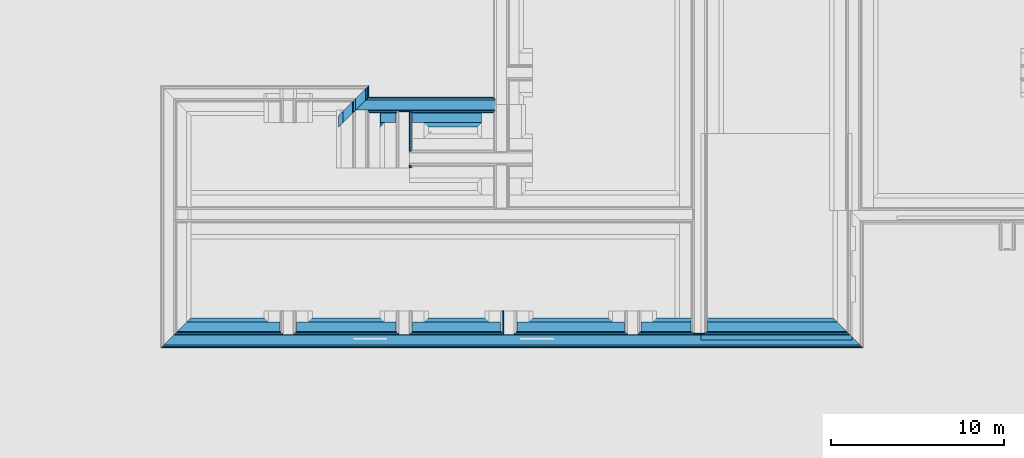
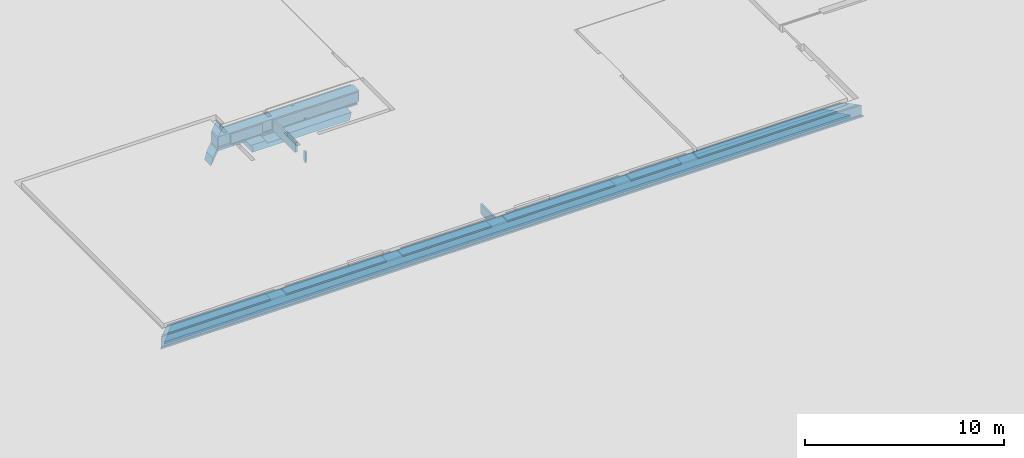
# One storey, part 4 of 15: 17 building element parts, 5 elements without a shape of their own.
"""IFC2X3 building model written with IfcOpenShell, lengths in millimetres."""

from ifc_helpers import new_model, entity, si_unit, converted_unit, derived_unit, money_unit, direction, frame, origin_with_axes, place, context, subcontext, project, spatial, faceted_brep, material, type_object, element, aggregate, save


model = new_model("IFC2X3")

# Units and contexts
model_context = context("Model", 3, precision=0.01, world=origin_with_axes(), true_north=direction((0.0, 1.0)))
plan_context = context("Plan", 3, precision=0.01, world=origin_with_axes(), true_north=direction((0.0, 1.0)))
body_context = subcontext(model_context, "Body", "Model", "MODEL_VIEW")
ifc_project = project(units=[si_unit("LENGTHUNIT", "METRE", prefix="MILLI"), si_unit("AREAUNIT", "SQUARE_METRE"), si_unit("VOLUMEUNIT", "CUBIC_METRE"), converted_unit("PLANEANGLEUNIT", "DEGREE", entity("IfcPlaneAngleMeasure", 0.0174532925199), si_unit("PLANEANGLEUNIT", "RADIAN"), dimensions=[0, 0, 0, 0, 0, 0, 0]), money_unit("EUR"), converted_unit("TIMEUNIT", "Year", entity("IfcTimeMeasure", 31556926.0), si_unit("TIMEUNIT", "SECOND"), dimensions=[0, 0, 1, 0, 0, 0, 0]), si_unit("MASSUNIT", "GRAM", prefix="KILO"), si_unit("THERMODYNAMICTEMPERATUREUNIT", "DEGREE_CELSIUS"), si_unit("LUMINOUSINTENSITYUNIT", "LUMEN"), si_unit("ENERGYUNIT", "JOULE", prefix="MEGA"), derived_unit("THERMALCONDUCTANCEUNIT", [(si_unit("POWERUNIT", "WATT"), 1), (si_unit("LENGTHUNIT", "METRE"), -1), (si_unit("THERMODYNAMICTEMPERATUREUNIT", "KELVIN"), -1)]), derived_unit("SPECIFICHEATCAPACITYUNIT", [(si_unit("ENERGYUNIT", "JOULE"), 1), (si_unit("MASSUNIT", "GRAM", prefix="KILO"), -1), (si_unit("THERMODYNAMICTEMPERATUREUNIT", "KELVIN"), -1)]), derived_unit("MASSDENSITYUNIT", [(si_unit("MASSUNIT", "GRAM", prefix="KILO"), 1), (si_unit("VOLUMEUNIT", "CUBIC_METRE"), -1)])], contexts=[model_context, plan_context])

# Site, building, storey
site_placement = place(None, origin_with_axes())
site = spatial("IfcSite", under=ifc_project, at=site_placement, Name="Site", CompositionType="ELEMENT")
building_placement = place(site_placement, origin_with_axes())
building = spatial("IfcBuilding", under=site, at=building_placement, Name="Naam gebouw", CompositionType="ELEMENT")
storey_placement = place(building_placement, frame((0.0, 0.0, -1050.0), z_axis=(0.0, 0.0, 1.0), x_axis=(1.0, 0.0, 0.0)))
storey = spatial("IfcBuildingStorey", under=building, at=storey_placement, Name="fundering", CompositionType="ELEMENT", Elevation=-1050.0)

# Beam, building element parts
beam_type_1 = type_object("IfcBeamType", Name="Fundering balk IsoBouw Powerkist buitenwand 1750 x 850", PredefinedType="BEAM")
beam_1_placement = place(storey_placement, frame((16004.9996945, 18495.0, -60.000005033), z_axis=(0.0, 0.0, 1.0), x_axis=(0.0, -1.0, 0.0)))
beam_1 = element("IfcBeam", 1, at=beam_1_placement, inside=storey, type_object=beam_type_1, Name="28_Balk-x", ObjectType="BEAM")
ifc_material_1 = material(Name="ALG - TERREIN")
building_element_part_1_placement = place(beam_1_placement, origin_with_axes())
building_element_part_1 = element("IfcBuildingElementPart", 2, at=building_element_part_1_placement, material=ifc_material_1, Name="ALG - TERREIN", context=body_context, shape_type="Brep", body=[
    faceted_brep([(1154.99962712, 1240.00030548, -109.999618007), (1295.00000274, 1099.99992986, -249.999995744), (1295.00000274, 6740.00005415, -249.99999363), (1045.00001313, 6990.00005135, -6.92593293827e-06), (1045.00001313, 2975.0006811, 3.55514506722e-06), (1145.000005, 2975.0006811, -99.9999958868), (1145.00000532, 2024.99992986, -99.9999962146), (1045.00001313, 2024.99992986, 2.61899413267e-06), (1045.00001313, 1130.00070343, -1.99931537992e-06), (319.999997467, 1240.00030548, -109.999618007), (319.999997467, 1099.99992986, -249.999996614), (319.999997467, -320.000577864, -249.99999363), (20.0000061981, -20.000042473, -249.999996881), (20.0000061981, 6740.00005415, -249.99999363), (20.0000061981, 6890.00005509, -99.9999926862), (495.000015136, 6890.00005509, -99.9999926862), (495.000015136, 6990.00005135, -1.40395806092e-06), (495.00000274, 2975.0006811, 7.15338899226e-07), (495.00000274, 2975.0006811, -99.9999968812), (319.999997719, 1230.00068016, -99.9999926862), (495.00000274, 1230.00068367, -99.999996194), (495.00000274, 2024.99992986, -99.9999968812), (20.0000061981, -20.000042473, -99.9999926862), (319.999997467, -320.000577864, -99.9999894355), (319.999997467, 455.000701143, -99.9999926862), (495.00000274, 2024.99992986, 7.15338899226e-07), (495.00000274, 1130.00070343, 9.31758892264e-07)], [[[0, 1, 2, 3, 4, 5, 6, 7, 8]], [[1, 0, 9, 10]], [[10, 11, 12, 13, 2, 1]], [[13, 14, 15, 16, 3, 2]], [[16, 17, 4, 3]], [[5, 4, 17, 18]], [[19, 20, 21, 6, 5, 18, 15, 14, 22, 23, 24]], [[6, 21, 25, 7]], [[26, 8, 7, 25]], [[0, 8, 26, 20, 19, 9]], [[19, 24, 23, 11, 10, 9]], [[11, 23, 22, 12]], [[12, 22, 14, 13]], [[15, 18, 17, 16]], [[20, 26, 25, 21]]]),
])
ifc_material_2 = material(Name="Isolatie - EPS")
building_element_part_2_placement = place(beam_1_placement, origin_with_axes())
building_element_part_2 = element("IfcBuildingElementPart", 3, at=building_element_part_2_placement, material=ifc_material_2, Name="Isolatie - EPS", context=body_context, shape_type="Brep", body=[
    faceted_brep([(319.999997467, 455.000681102, -99.9999936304), (319.999997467, 455.000681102, -49.0824410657), (319.99999279, 7665.00005415, -49.0824410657), (319.99999279, 7665.00005415, 1.05045350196e-06), (319.99999279, -320.000573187, 7.15338899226e-07), (319.99999279, -320.000573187, -49.082437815), (319.999997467, -320.000577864, -99.9999920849), (400.000002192, 455.000681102, 1.16873148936e-05), (400.000002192, 455.000681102, -49.0824392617), (495.00000274, 455.000681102, -99.9999936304), (495.00000274, 455.000681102, 1.16873148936e-05), (419.999990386, 455.000681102, 1.16873148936e-05), (400.000002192, 7665.00005415, -49.0824410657), (-455.00000274, 7665.00030274, -99.9999936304), (-455.00000274, 7665.00030274, -8.21847834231e-06), (-379.999990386, 7665.00030274, -6.21002538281e-06), (-360.000002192, 7665.00030274, -5.67443825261e-06), (-360.000002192, 7665.00030274, -49.0824410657), (-279.99999279, 7665.00030274, -49.0824410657), (-279.99999279, 7665.00030274, -3.53208839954e-06), (400.000002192, 7665.00005415, 1.39406308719e-06), (419.999990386, 7665.00005415, 1.4799654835e-06), (495.00000274, 7665.00005415, 1.80209958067e-06), (495.00000274, 7665.00005415, -99.9999936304), (20.0000061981, 7665.00005415, -99.9999936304), (-279.99999279, 280.000500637, 7.15338899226e-07), (20.0000061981, -20.000042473, -99.9999926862), (-279.99999279, 280.000500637, -49.0824410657), (-360.000002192, 360.000655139, -49.0824410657), (-360.000002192, 360.000655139, 7.15338899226e-07), (-379.999990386, 380.000679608, 7.15338899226e-07), (-455.00000274, 455.000827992, 7.15338899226e-07), (-455.00000274, 455.000827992, -99.9999968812)], [[[0, 1, 2, 3, 4, 5, 6]], [[7, 8, 1, 0, 9, 10, 11]], [[2, 1, 8, 12]], [[13, 14, 15, 16, 17, 18, 19, 3, 2, 12, 20, 21, 22, 23, 24]], [[19, 25, 4, 3]], [[26, 6, 5, 4, 25, 27, 28, 29, 30, 31, 32]], [[9, 0, 6, 26, 24, 23]], [[12, 8, 7, 20]], [[22, 10, 9, 23]], [[21, 11, 10, 22]], [[20, 7, 11, 21]], [[14, 13, 32, 31]], [[15, 14, 31, 30]], [[16, 15, 30, 29]], [[17, 16, 29, 28]], [[18, 17, 28, 27]], [[19, 18, 27, 25]], [[26, 32, 13, 24]]]),
])
building_element_part_3_placement = place(beam_1_placement, origin_with_axes())
building_element_part_3 = element("IfcBuildingElementPart", 4, at=building_element_part_3_placement, material=ifc_material_2, Name="Isolatie - EPS", context=body_context, shape_type="Brep", body=[
    faceted_brep([(-379.999993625, 380.000682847, 600.000001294), (-279.999999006, 280.000506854, 600.000001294), (-279.999999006, 7740.00031556, 600.000007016), (-379.999993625, 7740.00031688, 600.000007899), (-359.999996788, 360.000649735, -49.0824424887), (-279.999999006, 280.000506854, -49.0824424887), (-379.999993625, 380.000682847, 2.28759100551e-06), (-359.999996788, 360.000649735, 2.28759100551e-06), (-279.999999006, 7665.00030274, -49.0824424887), (-279.999999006, 7665.00030274, -3.53208862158e-06), (-279.999999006, 7740.00031556, 1.3120043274e-05), (-379.999993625, 7740.00031688, 1.58277775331e-05), (-359.999996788, 7665.00030274, -49.0824424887), (-359.999996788, 7665.00030274, -5.67443803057e-06)], [[[0, 1, 2, 3]], [[4, 5, 1, 0, 6, 7]], [[8, 9, 10, 2, 1, 5]], [[2, 10, 11, 3]], [[6, 0, 3, 11]], [[5, 4, 12, 8]], [[7, 6, 11, 10, 9, 13]], [[4, 7, 13, 12]], [[9, 8, 12, 13]]]),
])
building_element_part_4_placement = place(beam_1_placement, origin_with_axes())
building_element_part_4 = element("IfcBuildingElementPart", 5, at=building_element_part_4_placement, material=ifc_material_2, Name="Isolatie - EPS", context=body_context, shape_type="Brep", body=[
    faceted_brep([(319.999997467, 455.000681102, -49.082439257), (319.999997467, 455.000681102, 1.16873148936e-05), (319.999997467, 380.000666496, 1.16873148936e-05), (319.999997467, 380.000671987, 600.00000763), (320.0, 2199.99993259, 600.000001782), (320.0, 2199.99993259, 1.78216552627e-06), (320.0, 2800.00067836, 1.78216552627e-06), (320.0, 2800.00067836, 600.000001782), (319.999999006, 7740.00006598, 600.000004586), (319.999999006, 7740.00006598, 8.15086287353e-06), (319.999999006, 7665.00005415, 1.05045350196e-06), (319.999999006, 7665.00005415, -49.0824407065), (399.999996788, 455.000681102, 1.16873148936e-05), (399.999996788, 455.000681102, -49.082439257), (399.999996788, 380.000666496, 1.16873148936e-05), (419.999993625, 380.000671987, 5.67576496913e-06), (419.999993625, 380.000671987, 600.00000763), (419.999993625, 2199.99993259, 600.000001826), (419.999993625, 2199.99993259, 1.82607085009e-06), (399.999996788, 2199.99993259, 1.8172896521e-06), (399.999996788, 2800.00067836, 1.8172896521e-06), (419.999993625, 2800.00067836, 1.82607085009e-06), (419.999993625, 2800.00067836, 600.000001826), (419.999993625, 7740.00006683, 600.000003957), (419.999993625, 7740.00006683, 7.85212783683e-06), (399.999996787, 7665.00005415, 1.39406308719e-06), (399.999996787, 7665.00005415, -49.0824407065)], [[[0, 1, 2, 3, 4, 5, 6, 7, 8, 9, 10, 11]], [[12, 1, 0, 13]], [[14, 2, 1, 12]], [[3, 2, 14, 15, 16]], [[17, 4, 3, 16]], [[18, 19, 5, 4, 17]], [[5, 19, 20, 6]], [[20, 21, 22, 7, 6]], [[22, 23, 8, 7]], [[9, 8, 23, 24]], [[24, 21, 20, 25, 10, 9]], [[11, 10, 25, 26]], [[26, 13, 0, 11]], [[19, 12, 13, 26, 25, 20]], [[15, 14, 12, 19, 18]], [[18, 17, 16, 15]], [[21, 24, 23, 22]]]),
])
ifc_material_3 = material(Name="Beton gewapend C")
building_element_part_5_placement = place(beam_1_placement, origin_with_axes())
building_element_part_5 = element("IfcBuildingElementPart", 6, at=building_element_part_5_placement, material=ifc_material_3, Name="Beton gewapend C", context=body_context, shape_type="Brep", body=[
    faceted_brep([(-280.0, 280.000507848, 600.0), (320.0, -320.000580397, 600.000001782), (320.0, 7840.00005689, 600.000003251), (-280.0, 7840.00030548, 600.000003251), (320.0, -320.000580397, 1.78216552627e-06), (-280.0, 280.000507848, 0.0), (320.0, 7840.00005689, 3.25079585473e-06), (-280.0, 7840.00030548, 3.25079585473e-06)], [[[0, 1, 2, 3]], [[4, 1, 0, 5]], [[1, 4, 6, 2]], [[7, 3, 2, 6]], [[7, 5, 0, 3]], [[5, 7, 6, 4]]]),
])
aggregate(beam_1, [building_element_part_1, building_element_part_2, building_element_part_3, building_element_part_4, building_element_part_5])

beam_2_placement = place(storey_placement, frame((44654.9999844, 4850.00002155, -60.0000017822), z_axis=(0.0, 0.0, 1.0), x_axis=(-5.4149593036e-10, 1.0, 0.0)))
beam_2 = element("IfcBeam", 7, at=beam_2_placement, inside=storey, type_object=beam_type_1, Name="28_Balk-x", ObjectType="BEAM")
building_element_part_6_placement = place(beam_2_placement, origin_with_axes())
building_element_part_6 = element("IfcBuildingElementPart", 8, at=building_element_part_6_placement, material=ifc_material_1, Name="ALG - TERREIN", context=body_context, shape_type="Brep", body=[
    faceted_brep([(1045.00001313, 9525.00035945, 8.22691470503e-07), (1145.00001132, 9525.00035939, -99.9999968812), (1145.00001132, 8574.99960815, -99.9999968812), (1045.00001313, 8574.9996082, 8.22691470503e-07), (1045.00001313, 1045.00001257, -7.27431315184e-06), (1295.00000274, 1295.00000204, -249.999996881), (1295.00000274, 38509.9999809, -249.999996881), (1045.00001313, 38759.9999707, -7.27431315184e-06), (1045.00001313, 33342.5007323, 1.30305788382e-06), (1145.00001132, 33342.5007323, -99.9999968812), (1145.00001132, 32392.4992353, -99.9999968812), (1045.00001313, 32392.4992353, 1.30305788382e-06), (1045.00001313, 26625.0007323, 1.30305788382e-06), (1145.00001132, 26625.0007323, -99.9999968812), (1145.00001132, 25674.9992353, -99.9999968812), (1045.00001313, 25674.9992353, 1.30305788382e-06), (1045.00001313, 20555.0007323, 1.30305788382e-06), (1145.00001484, 20555.0007323, -99.9999968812), (1145.00001484, 19604.9992353, -99.9999968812), (1045.00001313, 19604.9992353, 1.30305788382e-06), (1045.00001313, 13392.5011052, 4.82853690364e-06), (1145.00000274, 13392.5011052, -99.9999968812), (1145.00000274, 12442.4988624, -99.9999968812), (1045.00001313, 12442.4988624, 4.82853690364e-06), (495.00000274, 9525.00035974, 7.15338899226e-07), (495.00000274, 9525.00035974, -99.9999968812), (495.00000274, 8574.9996085, -99.9999968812), (495.00000274, 12442.4988627, -99.9999968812), (495.00000274, 13392.5011055, -99.9999968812), (495.00000274, 19604.9992356, -99.9999968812), (495.00000274, 20555.0007326, -99.9999968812), (495.00000274, 25674.9992356, -99.9999968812), (495.00000274, 26625.0007326, -99.9999968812), (495.00000274, 32392.4992356, -99.9999968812), (495.00000274, 33342.5007326, -99.9999968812), (495.000015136, 39309.999969, -99.9999926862), (20.0000061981, 39784.9999782, -99.9999926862), (20.0000061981, 20.0000061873, -99.9999926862), (495.000015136, 495.000014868, -99.9999926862), (495.00000274, 8574.9996085, 7.15338899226e-07), (495.000015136, 495.000014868, -7.27431315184e-06), (20.0000061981, 20.0000061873, -249.999996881), (20.0000061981, 39784.9999782, -249.999996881), (495.000015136, 39309.999969, -7.27431315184e-06), (495.00000274, 33342.5007326, 7.15338899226e-07), (495.00000274, 32392.4992356, 7.15338899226e-07), (495.00000274, 26625.0007326, 7.15338899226e-07), (495.00000274, 25674.9992356, 7.15338899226e-07), (495.00000274, 20555.0007326, 7.15338899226e-07), (495.00000274, 19604.9992356, 7.15338899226e-07), (495.00000274, 13392.5011055, 7.15338899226e-07), (495.00000274, 12442.4988627, 7.15338899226e-07)], [[[0, 1, 2, 3, 4, 5, 6, 7, 8, 9, 10, 11, 12, 13, 14, 15, 16, 17, 18, 19, 20, 21, 22, 23]], [[1, 0, 24, 25]], [[26, 2, 1, 25, 27, 22, 21, 28, 29, 18, 17, 30, 31, 14, 13, 32, 33, 10, 9, 34, 35, 36, 37, 38]], [[3, 2, 26, 39]], [[3, 39, 40, 4]], [[40, 38, 37, 41, 5, 4]], [[41, 42, 6, 5]], [[6, 42, 36, 35, 43, 7]], [[43, 44, 8, 7]], [[34, 9, 8, 44]], [[45, 11, 10, 33]], [[12, 11, 45, 46]], [[46, 32, 13, 12]], [[31, 47, 15, 14]], [[48, 16, 15, 47]], [[16, 48, 30, 17]], [[18, 29, 49, 19]], [[49, 50, 20, 19]], [[21, 20, 50, 28]], [[23, 22, 27, 51]], [[24, 0, 23, 51]], [[25, 24, 51, 27]], [[29, 28, 50, 49]], [[30, 48, 47, 31]], [[46, 45, 33, 32]], [[35, 34, 44, 43]], [[37, 36, 42, 41]], [[39, 26, 38, 40]]]),
])
building_element_part_7_placement = place(beam_2_placement, origin_with_axes())
building_element_part_7 = element("IfcBuildingElementPart", 9, at=building_element_part_7_placement, material=ifc_material_2, Name="Isolatie - EPS", context=body_context, shape_type="Brep", body=[
    faceted_brep([(400.000002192, 400.000001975, 7.15338899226e-07), (400.000002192, 39404.999982, 7.15338899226e-07), (400.000002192, 39404.999982, -49.0824410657), (400.000002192, 400.000001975, -49.0824410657), (419.999990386, 419.999990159, 7.15338899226e-07), (419.999990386, 39384.9999938, 7.15338899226e-07), (-279.99999279, 40084.9999773, -49.0824410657), (-279.99999279, 40084.9999773, 7.15338899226e-07), (319.99999279, 39484.9999914, 7.15338899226e-07), (319.99999279, 39484.9999914, -49.0824410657), (495.00000274, 39309.9999814, 7.15338899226e-07), (495.00000274, 39309.9999814, -99.9999968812), (20.0000061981, 39784.9999782, -99.9999926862), (-455.00000274, 40259.9999874, -99.9999968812), (-455.00000274, 40259.9999874, 7.15338899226e-07), (-379.999990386, 40184.999975, 7.15338899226e-07), (-360.000002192, 40164.9999868, 7.15338899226e-07), (-360.000002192, 40164.9999868, -49.0824410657), (319.99999279, 319.999992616, -49.0824410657), (-455.00000274, -455.000002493, -99.9999968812), (20.0000061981, 20.0000061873, -99.9999926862), (495.00000274, 495.000002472, -99.9999968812), (495.00000274, 495.000002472, 7.15338899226e-07), (319.99999279, 319.999992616, 7.15338899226e-07), (-279.99999279, -279.999992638, 7.15338899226e-07), (-279.99999279, -279.999992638, -49.0824410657), (-360.000002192, -360.000001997, -49.0824410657), (-360.000002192, -360.000001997, 7.15338899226e-07), (-379.999990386, -379.99999018, 7.15338899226e-07), (-455.00000274, -455.000002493, 7.15338899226e-07)], [[[0, 1, 2, 3]], [[4, 5, 1, 0]], [[6, 7, 8, 9, 2, 1, 5, 10, 11, 12, 13, 14, 15, 16, 17]], [[3, 2, 9, 18]], [[19, 20, 21, 22, 4, 0, 3, 18, 23, 24, 25, 26, 27, 28, 29]], [[22, 10, 5, 4]], [[24, 7, 6, 25]], [[23, 8, 7, 24]], [[18, 9, 8, 23]], [[21, 11, 10, 22]], [[20, 12, 11, 21]], [[19, 13, 12, 20]], [[29, 14, 13, 19]], [[28, 15, 14, 29]], [[27, 16, 15, 28]], [[26, 17, 16, 27]], [[25, 6, 17, 26]]]),
])
building_element_part_8_placement = place(beam_2_placement, origin_with_axes())
building_element_part_8 = element("IfcBuildingElementPart", 10, at=building_element_part_8_placement, material=ifc_material_2, Name="Isolatie - EPS", context=body_context, shape_type="Brep", body=[
    faceted_brep([(-379.999993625, 40184.9999782, 2.28759100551e-06), (-359.999996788, 40164.9999814, 2.28759100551e-06), (-359.999996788, -359.999996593, 2.28759100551e-06), (-379.999993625, -379.999993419, 2.28759100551e-06), (-379.999993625, 40184.9999782, 600.000001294), (-279.999999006, 40084.9999835, 600.000001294), (-279.999999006, 40084.9999835, -49.0824424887), (-359.999996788, 40164.9999814, -49.0824424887), (-359.999996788, -359.999996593, -49.0824424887), (-279.999999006, -279.999998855, -49.0824424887), (-279.999999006, -279.999998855, 600.000001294), (-379.999993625, -379.999993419, 600.000001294)], [[[0, 1, 2, 3]], [[0, 4, 5, 6, 7, 1]], [[1, 7, 8, 2]], [[3, 2, 8, 9, 10, 11]], [[4, 0, 3, 11]], [[5, 4, 11, 10]], [[6, 5, 10, 9]], [[7, 6, 9, 8]]]),
])
building_element_part_9_placement = place(beam_2_placement, origin_with_axes())
building_element_part_9 = element("IfcBuildingElementPart", 11, at=building_element_part_9_placement, material=ifc_material_2, Name="Isolatie - EPS", context=body_context, shape_type="Brep", body=[
    faceted_brep([(419.999993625, 419.999993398, 570.000001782), (319.999999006, 319.999998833, 570.000001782), (319.999999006, 319.999998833, -49.0824407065), (399.999996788, 399.999996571, -49.0824407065), (399.999996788, 399.999996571, 4.06975675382e-06), (419.999993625, 419.999993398, 4.06975675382e-06), (320.0, 8749.99961133, 570.000001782), (419.999993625, 8749.99961128, 570.000001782), (320.0, 8749.99961133, 1.78216552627e-06), (320.0, 9350.0003571, 1.78216552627e-06), (320.0, 9350.0003571, 600.000001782), (320.0, 12617.4988655, 600.000001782), (320.0, 12617.4988655, 1.78216552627e-06), (320.0, 13217.5011029, 1.78216552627e-06), (320.0, 13217.5011029, 600.000001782), (320.0, 19779.9992384, 600.000001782), (320.0, 19779.9992384, 1.78216552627e-06), (320.0, 20380.00073, 1.78216552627e-06), (320.0, 20380.00073, 600.000001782), (320.0, 25849.9992384, 600.000001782), (320.0, 25849.9992384, 1.78216552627e-06), (320.0, 26450.00073, 1.78216552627e-06), (320.0, 26450.00073, 600.000001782), (320.0, 32567.4992384, 600.000001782), (320.0, 32567.4992384, 1.78216552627e-06), (320.0, 33167.50073, 1.78216552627e-06), (320.0, 33167.50073, 600.000001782), (319.999999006, 39484.9999852, 600.000003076), (319.999999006, 39484.9999852, -49.0824407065), (399.999996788, 39404.9999874, -49.0824407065), (399.999996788, 12617.4988655, 1.67885150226e-06), (399.999996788, 9350.00035706, 1.77857728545e-06), (399.999996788, 8749.99961129, 1.77857728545e-06), (399.999996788, 39404.9999874, 4.06975675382e-06), (399.999996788, 33167.5007299, 1.67885150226e-06), (399.999996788, 32567.4992384, 1.67885150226e-06), (399.999996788, 26450.0007299, 1.67885150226e-06), (399.999996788, 25849.9992384, 1.67885150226e-06), (399.999996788, 20380.0007299, 1.67885150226e-06), (399.999996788, 19779.9992384, 1.67885150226e-06), (399.999996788, 13217.5011028, 1.67885150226e-06), (419.999993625, 8749.99961128, 1.77768022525e-06), (419.999993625, 9350.00035705, 1.77768022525e-06), (419.999993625, 9350.00035705, 600.000001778), (419.999993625, 12617.4988655, 600.000001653), (419.999993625, 12617.4988655, 1.65302305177e-06), (419.999993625, 13217.5011028, 1.65302305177e-06), (419.999993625, 13217.5011028, 600.000001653), (419.999993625, 19779.9992384, 600.000001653), (419.999993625, 19779.9992384, 1.65302305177e-06), (419.999993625, 20380.0007299, 600.000001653), (419.999993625, 20380.0007299, 1.65302305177e-06), (419.999993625, 25849.9992384, 600.000001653), (419.999993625, 25849.9992384, 1.65302305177e-06), (419.999993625, 26450.0007299, 1.65302305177e-06), (419.999993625, 26450.0007299, 600.000001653), (419.999993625, 32567.4992384, 600.000001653), (419.999993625, 32567.4992384, 1.65302305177e-06), (419.999993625, 33167.5007299, 1.65302305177e-06), (419.999993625, 33167.5007299, 600.000001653), (419.999993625, 39384.9999905, 600.000003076), (419.999993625, 39384.9999905, 4.06975675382e-06)], [[[0, 1, 2, 3, 4, 5]], [[6, 1, 0, 7]], [[1, 6, 8, 9, 10, 11, 12, 13, 14, 15, 16, 17, 18, 19, 20, 21, 22, 23, 24, 25, 26, 27, 28, 2]], [[3, 2, 28, 29]], [[30, 31, 32, 4, 3, 29, 33, 34, 35, 36, 37, 38, 39, 40]], [[4, 32, 41, 5]], [[7, 0, 5, 41]], [[6, 7, 41, 32, 8]], [[8, 32, 31, 9]], [[31, 42, 43, 10, 9]], [[11, 10, 43, 44]], [[11, 44, 45, 30, 12]], [[12, 30, 40, 13]], [[46, 47, 14, 13, 40]], [[48, 15, 14, 47]], [[48, 49, 39, 16, 15]], [[39, 38, 17, 16]], [[50, 18, 17, 38, 51]], [[19, 18, 50, 52]], [[53, 37, 20, 19, 52]], [[36, 21, 20, 37]], [[22, 21, 36, 54, 55]], [[22, 55, 56, 23]], [[35, 24, 23, 56, 57]], [[25, 24, 35, 34]], [[25, 34, 58, 59, 26]], [[60, 27, 26, 59]], [[60, 61, 33, 29, 28, 27]], [[45, 42, 31, 30]], [[33, 61, 58, 34]], [[54, 36, 35, 57]], [[53, 51, 38, 37]], [[39, 49, 46, 40]], [[44, 43, 42, 45]], [[49, 48, 47, 46]], [[52, 50, 51, 53]], [[55, 54, 57, 56]], [[61, 60, 59, 58]]]),
])
building_element_part_10_placement = place(beam_2_placement, origin_with_axes())
building_element_part_10 = element("IfcBuildingElementPart", 12, at=building_element_part_10_placement, material=ifc_material_3, Name="Beton gewapend C", context=body_context, shape_type="Brep", body=[
    faceted_brep([(320.0, 319.999999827, 570.000001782), (209.999805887, 209.999805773, 570.000001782), (209.999805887, 209.999805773, 600.000001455), (-280.0, -279.999999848, 600.0), (-280.0, -279.999999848, 0.0), (320.0, 319.999999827, 1.78216552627e-06), (320.0, 8949.99998422, 570.000001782), (-1.66825131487e-05, 8949.99998439, 570.000001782), (-2.14151878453e-05, 209.999805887, 570.000001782), (-2.14151878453e-05, 209.999805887, 600.000000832), (-1.66825131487e-05, 8949.99998439, 600.000000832), (320.0, 8949.99998422, 600.000001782), (320.0, 39484.9999842, 600.000001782), (-280.0, 40084.9999845, 600.0), (-280.0, 40084.9999845, 0.0), (320.0, 39484.9999842, 1.78216552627e-06)], [[[0, 1, 2, 3, 4, 5]], [[1, 0, 6, 7, 8]], [[9, 2, 1, 8]], [[10, 11, 12, 13, 3, 2, 9]], [[3, 13, 14, 4]], [[4, 14, 15, 5]], [[6, 0, 5, 15, 12, 11]], [[6, 11, 10, 7]], [[10, 9, 8, 7]], [[13, 12, 15, 14]]]),
])
aggregate(beam_2, [building_element_part_6, building_element_part_7, building_element_part_8, building_element_part_9, building_element_part_10])

beam_3_placement = place(storey_placement, frame((16005.0008825, 19150.0, -60.0000017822), z_axis=(0.0, 0.0, 1.0), x_axis=(-0.999999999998, 1.81374004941e-06, 0.0)))
beam_3 = element("IfcBeam", 13, at=beam_3_placement, inside=storey, type_object=beam_type_1, Name="28_Balk-x", ObjectType="BEAM")
building_element_part_11_placement = place(beam_3_placement, origin_with_axes())
building_element_part_11 = element("IfcBuildingElementPart", 14, at=building_element_part_11_placement, material=ifc_material_1, Name="ALG - TERREIN", context=body_context, shape_type="Brep", body=[
    faceted_brep([(1045.00001313, 1045.00190849, -7.27431315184e-06), (1045.00001313, 1700.00190849, -7.27431315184e-06), (495.000015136, 1150.00091294, -7.27431315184e-06), (495.000015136, 495.000912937, -7.27431315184e-06), (1295.00000274, 1295.00235153, -249.999996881), (1295.00000274, 1950.00235154, -249.999996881), (20.0000061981, 675.000042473, -249.999996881), (20.0000061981, 675.000042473, -99.9999926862), (495.000015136, 1150.00091294, -99.9999926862), (495.000015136, 495.000912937, -99.9999926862), (20.0000061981, 20.0000424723, -99.9999926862), (20.0000061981, 20.0000424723, -249.999996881)], [[[0, 1, 2, 3]], [[4, 5, 1, 0]], [[2, 1, 5, 6, 7, 8]], [[3, 2, 8, 9]], [[4, 0, 3, 9, 10, 11]], [[11, 6, 5, 4]], [[10, 7, 6, 11]], [[9, 8, 7, 10]]]),
])
building_element_part_12_placement = place(beam_3_placement, origin_with_axes())
building_element_part_12 = element("IfcBuildingElementPart", 15, at=building_element_part_12_placement, material=ifc_material_2, Name="Isolatie - EPS", context=body_context, shape_type="Brep", body=[
    faceted_brep([(400.000002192, 400.000727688, 7.15338899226e-07), (400.000002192, 1055.00072769, 7.15338899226e-07), (400.000002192, 1055.00072769, -49.0824410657), (400.000002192, 400.000727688, -49.0824410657), (419.999990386, 420.000752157, 7.15338899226e-07), (419.999990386, 1075.00075216, 7.15338899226e-07), (495.00000274, 1150.00090054, 7.15338899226e-07), (495.00000274, 1150.00090054, -99.9999968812), (20.0000061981, 675.000042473, -99.9999926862), (-455.00000274, 199.999172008, -99.9999968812), (-455.00000274, 199.999172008, 7.15338899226e-07), (-379.999990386, 274.999320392, 7.15338899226e-07), (-360.000002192, 294.999344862, 7.15338899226e-07), (-360.000002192, 294.999344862, -49.0824410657), (-279.99999279, 374.999499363, -49.0824410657), (-279.99999279, 374.999499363, 7.15338899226e-07), (319.99999279, 975.000573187, 7.15338899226e-07), (319.99999279, 975.000573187, -49.0824410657), (319.99999279, 320.000573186, -49.0824410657), (319.99999279, 320.000573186, 7.15338899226e-07), (-279.99999279, -280.000500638, 7.15338899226e-07), (-279.99999279, -280.000500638, -49.0824410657), (-360.000002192, -360.000655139, -49.0824410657), (-360.000002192, -360.000655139, 7.15338899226e-07), (-379.999990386, -380.000679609, 7.15338899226e-07), (-455.00000274, -455.000827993, 7.15338899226e-07), (-455.00000274, -455.000827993, -99.9999968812), (20.0000061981, 20.0000424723, -99.9999926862), (495.00000274, 495.000900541, -99.9999968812), (495.00000274, 495.000900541, 7.15338899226e-07)], [[[0, 1, 2, 3]], [[4, 5, 1, 0]], [[2, 1, 5, 6, 7, 8, 9, 10, 11, 12, 13, 14, 15, 16, 17]], [[3, 2, 17, 18]], [[4, 0, 3, 18, 19, 20, 21, 22, 23, 24, 25, 26, 27, 28, 29]], [[29, 6, 5, 4]], [[28, 7, 6, 29]], [[27, 8, 7, 28]], [[26, 9, 8, 27]], [[25, 10, 9, 26]], [[24, 11, 10, 25]], [[23, 12, 11, 24]], [[22, 13, 12, 23]], [[21, 14, 13, 22]], [[20, 15, 14, 21]], [[19, 16, 15, 20]], [[18, 17, 16, 19]]]),
])
building_element_part_13_placement = place(beam_3_placement, origin_with_axes())
building_element_part_13 = element("IfcBuildingElementPart", 16, at=building_element_part_13_placement, material=ifc_material_2, Name="Isolatie - EPS", context=body_context, shape_type="Brep", body=[
    faceted_brep([(-379.999993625, -380.000682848, 2.28759100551e-06), (-379.999993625, 274.999317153, 2.28759100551e-06), (-359.999996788, 294.999350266, 2.28759100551e-06), (-359.999996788, -360.000649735, 2.28759100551e-06), (-379.999993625, -380.000682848, 600.000001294), (-379.999993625, 274.999317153, 600.000001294), (-279.999999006, 374.999493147, 600.000001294), (-279.999999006, 374.999493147, -49.0824424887), (-359.999996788, 294.999350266, -49.0824424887), (-359.999996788, -360.000649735, -49.0824424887), (-279.999999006, -280.000506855, -49.0824424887), (-279.999999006, -280.000506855, 600.000001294)], [[[0, 1, 2, 3]], [[4, 5, 1, 0]], [[2, 1, 5, 6, 7, 8]], [[3, 2, 8, 9]], [[4, 0, 3, 9, 10, 11]], [[11, 6, 5, 4]], [[10, 7, 6, 11]], [[9, 8, 7, 10]]]),
])
building_element_part_14_placement = place(beam_3_placement, origin_with_axes())
building_element_part_14 = element("IfcBuildingElementPart", 17, at=building_element_part_14_placement, material=ifc_material_2, Name="Isolatie - EPS", context=body_context, shape_type="Brep", body=[
    faceted_brep([(319.999999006, 320.000579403, 600.000003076), (419.999993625, 420.000755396, 600.000003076), (419.999993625, 1075.0007554, 600.000003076), (319.999999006, 975.000579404, 600.000003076), (399.999996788, 400.000722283, 4.06975675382e-06), (419.999993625, 420.000755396, 4.06975675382e-06), (319.999999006, 320.000579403, -49.0824407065), (399.999996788, 400.000722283, -49.0824407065), (419.999993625, 1075.0007554, 4.06975675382e-06), (319.999999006, 975.000579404, -49.0824407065), (399.999996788, 1055.00072228, 4.06975675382e-06), (399.999996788, 1055.00072228, -49.0824407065)], [[[0, 1, 2, 3]], [[4, 5, 1, 0, 6, 7]], [[1, 5, 8, 2]], [[9, 3, 2, 8, 10, 11]], [[6, 0, 3, 9]], [[5, 4, 10, 8]], [[7, 6, 9, 11]], [[4, 7, 11, 10]]]),
])
building_element_part_15_placement = place(beam_3_placement, origin_with_axes())
building_element_part_15 = element("IfcBuildingElementPart", 18, at=building_element_part_15_placement, material=ifc_material_3, Name="Beton gewapend C", context=body_context, shape_type="Brep", body=[
    faceted_brep([(320.0, 320.000580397, 600.000001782), (320.0, 975.000580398, 600.000001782), (-280.0, 374.999492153, 600.0), (-280.0, -280.000507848, 600.0), (320.0, 320.000580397, 1.78216552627e-06), (320.0, 975.000580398, 1.78216552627e-06), (-280.0, 374.999492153, 0.0), (-280.0, -280.000507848, 0.0)], [[[0, 1, 2, 3]], [[4, 5, 1, 0]], [[2, 1, 5, 6]], [[3, 2, 6, 7]], [[4, 0, 3, 7]], [[7, 6, 5, 4]]]),
])
aggregate(beam_3, [building_element_part_11, building_element_part_12, building_element_part_13, building_element_part_14, building_element_part_15])

# Beam, building element part
beam_type_2 = type_object("IfcBeamType", Name="Fundering balk IsoBouw Powerkist 2800 x 850", PredefinedType="BEAM")
beam_4_placement = place(storey_placement, frame((18505.0, 18495.0, -60.0000017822), z_axis=(0.0, 0.0, 1.0), x_axis=(-1.0, 0.0, 0.0)))
beam_4 = element("IfcBeam", 19, at=beam_4_placement, inside=storey, type_object=beam_type_2, Name="28_Balk-x", ObjectType="BEAM")
building_element_part_16_placement = place(beam_4_placement, origin_with_axes())
building_element_part_16 = element("IfcBuildingElementPart", 20, at=building_element_part_16_placement, material=ifc_material_2, Name="Isolatie - EPS", context=body_context, shape_type="Brep", body=[
    faceted_brep([(-400.000366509, 2694.99963349, 2.376854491e-06), (-400.000366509, 419.999990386, -2.5354569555e-06), (-400.000366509, 419.999990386, 599.9999972), (-400.000366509, 2694.99963349, 600.000004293), (-300.0, 495.00000274, -2.5354569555e-06), (-300.0, 419.999990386, -2.5354569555e-06), (-380.000369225, 2694.99963898, 8.43651903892e-06), (-380.000369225, 2619.99962438, 8.43651903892e-06), (-380.000369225, 495.00000274, -2.5354569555e-06), (-300.000273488, 419.999990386, 599.9999972), (-300.0, 2694.99963349, 600.000004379), (-300.0, 2694.99963898, 8.43651903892e-06), (-300.000255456, 495.00000274, -49.0824424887), (-300.0, 2619.99962438, -49.0824424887), (-300.0, 2619.99962438, 8.43651903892e-06), (-380.000369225, 2619.99962438, -49.0824424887), (-380.000369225, 495.00000274, -49.0824424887)], [[[0, 1, 2, 3]], [[4, 5, 1, 0, 6, 7, 8]], [[5, 9, 2, 1]], [[3, 2, 9, 10]], [[3, 10, 11, 6, 0]], [[5, 4, 12, 13, 14, 11, 10, 9]], [[11, 14, 7, 6]], [[15, 16, 8, 7]], [[4, 8, 16, 12]], [[13, 12, 16, 15]], [[14, 13, 15, 7]]]),
    faceted_brep([(-380.000369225, 3664.9999907, 2.42496933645e-06), (-380.000369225, 3570.00037562, 8.43651926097e-06), (-380.000369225, 3495.00036102, 8.43651903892e-06), (-400.000366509, 3495.00036651, 2.376854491e-06), (-400.000366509, 3664.9999907, 2.42496933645e-06), (-380.000369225, 3664.9999907, -49.0824424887), (-380.000369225, 3570.00037562, -49.0824424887), (-300.0, 3570.00037562, 8.43651926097e-06), (-300.0, 3495.00036102, 8.43651903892e-06), (-300.0, 3495.00036651, 600.000004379), (-400.000366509, 3495.00036651, 600.000004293), (-400.000366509, 3664.9999907, 600.000004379), (-300.00036966, 3664.9999907, -49.0824424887), (-300.00036966, 3664.9999907, 600.000004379), (-300.0, 3570.00037562, -49.0824424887)], [[[0, 1, 2, 3, 4]], [[5, 6, 1, 0]], [[7, 8, 2, 1]], [[3, 2, 8, 9, 10]], [[4, 3, 10, 11]], [[12, 5, 0, 4, 11, 13]], [[12, 14, 6, 5]], [[7, 1, 6, 14]], [[8, 7, 14, 12, 13, 9]], [[11, 10, 9, 13]]]),
])
aggregate(beam_4, [building_element_part_16])

beam_5_placement = place(storey_placement, frame((24575.0, 4850.00001067, -60.0000017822), z_axis=(0.0, 0.0, 1.0), x_axis=(1.0, 0.0, 0.0)))
beam_5 = element("IfcBeam", 21, at=beam_5_placement, inside=storey, type_object=beam_type_2, Name="28_Balk-x", ObjectType="BEAM")
building_element_part_17_placement = place(beam_5_placement, origin_with_axes())
building_element_part_17 = element("IfcBuildingElementPart", 22, at=building_element_part_17_placement, material=ifc_material_2, Name="Isolatie - EPS", context=body_context, shape_type="Brep", body=[
    faceted_brep([(-300.00075075, 1700.00000123, 599.999997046), (-300.00075075, 419.999990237, 600.000000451), (-300.00075075, 419.999990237, 7.15338899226e-07), (-300.00075075, 495.00000259, 7.15338899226e-07), (-300.00075075, 495.00000259, -49.0824424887), (-300.00075075, 1700.00000123, -49.0824424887), (-400.0007394, 1700.00000123, 599.999997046), (-400.0007394, 419.999990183, 600.000000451), (-400.0007394, 419.999990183, 7.15338899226e-07), (-400.0007394, 1700.00000123, 2.5632542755e-06), (-380.000752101, 1700.00000123, 2.5632542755e-06), (-380.000752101, 495.000002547, 7.15338899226e-07), (-380.000752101, 495.000002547, -49.0824424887), (-380.000752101, 1700.00000123, -49.0824424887)], [[[0, 1, 2, 3, 4, 5]], [[6, 7, 1, 0]], [[8, 2, 1, 7]], [[3, 2, 8, 9, 10, 11]], [[12, 4, 3, 11]], [[5, 4, 12, 13]], [[5, 13, 10, 9, 6, 0]], [[9, 8, 7, 6]], [[13, 12, 11, 10]]]),
])
aggregate(beam_5, [building_element_part_17])

save(model, "model.ifc")
